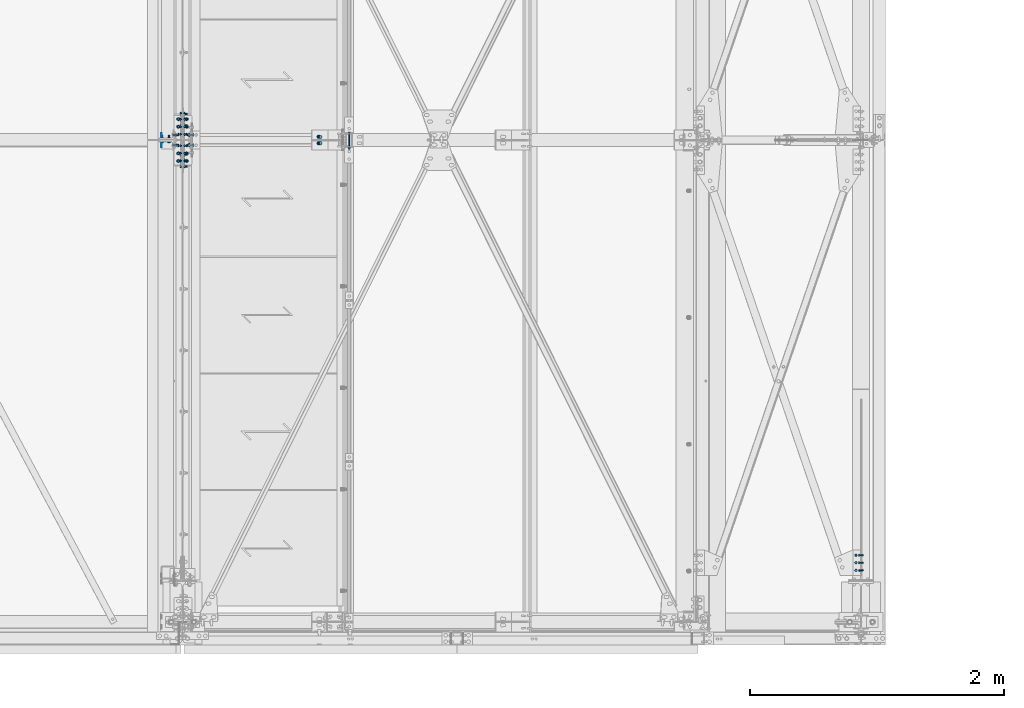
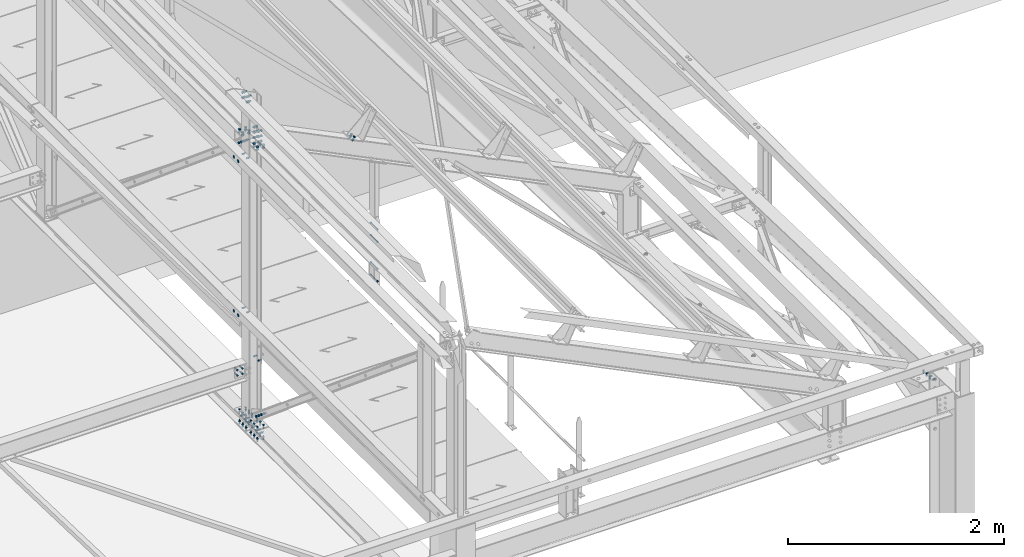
# One storey, part 188 of 362: 24 mechanical fasteners.
"""IFC2X3 building model written with IfcOpenShell, lengths in millimetres."""

from ifc_helpers import new_model, si_unit, frame, origin_with_axes, origin_2d_with_axis, place, context, subcontext, project, spatial, polyline, circle, outline, extrude, source, transform, mapped, material, type_object, element, save


model = new_model("IFC2X3")

# Units and contexts
model_context = context("Model", 3, precision=1e-05, world=origin_with_axes())
body_context = subcontext(model_context, "Body", "Model", "MODEL_VIEW")
ifc_project = project(units=[si_unit("LENGTHUNIT", "METRE", prefix="MILLI"), si_unit("AREAUNIT", "SQUARE_METRE"), si_unit("VOLUMEUNIT", "CUBIC_METRE"), si_unit("MASSUNIT", "GRAM", prefix="KILO"), si_unit("TIMEUNIT", "SECOND"), si_unit("PLANEANGLEUNIT", "RADIAN"), si_unit("SOLIDANGLEUNIT", "STERADIAN"), si_unit("THERMODYNAMICTEMPERATUREUNIT", "DEGREE_CELSIUS"), si_unit("LUMINOUSINTENSITYUNIT", "LUMEN")], contexts=[model_context])

# Site, building, storey
site_placement = place(None, origin_with_axes())
site = spatial("IfcSite", under=ifc_project, at=site_placement, Name="Undefined", CompositionType="ELEMENT")
building_placement = place(site_placement, origin_with_axes())
building = spatial("IfcBuilding", under=site, at=building_placement, Name="Undefined", CompositionType="ELEMENT")
storey_placement = place(building_placement, origin_with_axes())
storey = spatial("IfcBuildingStorey", under=building, at=storey_placement, Name="Undefined", CompositionType="ELEMENT", Elevation=0.0)

# Mechanical fasteners
ifc_material_1 = material(Name="6.8")
mechanical_fastener_type = type_object("IfcMechanicalFastenerType", Name="Bolt assembly")
shared_shape_1 = source(origin_with_axes(), body_context, "Body", "SweptSolid", [
    extrude(circle(Radius=15.0, at=origin_2d_with_axis()), frame((0.0, 0.0, 0.0), z_axis=(0.0, 1.0, 0.0), x_axis=(1.0, 0.0, 0.0)), (0.0, 0.0, 1.0), 4.1),
])
mechanical_fastener_1_placement = place(storey_placement, frame((34113.4999999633, 3800.0, 10245.0), z_axis=(0.0, 1.0, 0.0), x_axis=(0.0, 0.0, 1.0)))
element("IfcMechanicalFastener", 1, at=mechanical_fastener_1_placement, inside=storey, type_object=mechanical_fastener_type, material=ifc_material_1, Name="Bolt assembly", NominalDiameter=30.0, NominalLength=4.0, context=body_context, shape_type="MappedRepresentation", body=[
    mapped(shared_shape_1, transform((0.0, 0.0, 40.0))),
    mapped(shared_shape_1, transform((0.0, 0.0, -40.0))),
])
ifc_material_2 = material(Name="8.8-SB-ZINGUE")
shared_shape_2 = source(origin_with_axes(), body_context, "Body", "SweptSolid", [
    extrude(circle(Radius=9.0, at=origin_2d_with_axis()), frame((0.0, -10.9000000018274, 0.0), z_axis=(0.0, 1.0, 0.0), x_axis=(1.0, 0.0, 0.0)), (0.0, 0.0, 1.0), 6.0),
    extrude(circle(Radius=9.0, at=origin_2d_with_axis()), frame((0.0, 4.9000000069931, 0.0), z_axis=(0.0, 1.0, 0.0), x_axis=(1.0, 0.0, 0.0)), (0.0, 0.0, 1.0), 6.1),
    extrude(circle(Radius=9.0, at=origin_2d_with_axis()), frame((0.0, -3.99999923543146, 0.0), z_axis=(0.0, 1.0, 0.0), x_axis=(1.0, 0.0, 0.0)), (0.0, 0.0, 1.0), 8.0),
    extrude(outline(polyline([(13.85640646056, 0.0), (6.92820323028, 12.0000000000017), (-6.92820323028, 12.0000000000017), (-13.85640646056, 0.0), (-6.92820323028, -12.0000000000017), (6.92820323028, -12.0000000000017), (13.85640646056, 0.0)])), frame((0.0, -21.5600000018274, 0.0), z_axis=(0.0, 1.0, 0.0), x_axis=(1.0, 0.0, 0.0)), (0.0, 0.0, 1.0), 10.56),
    extrude(circle(Radius=8.0, at=origin_2d_with_axis()), frame((0.0, -11.0000000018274, 0.0), z_axis=(0.0, 1.0, 0.0), x_axis=(1.0, 0.0, 0.0)), (0.0, 0.0, 1.0), 50.0),
    extrude(outline(polyline([(15.3344231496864, 0.0), (7.6672115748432, 13.2800000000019), (-7.6672115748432, 13.2800000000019), (-15.3344231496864, 0.0), (-7.6672115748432, -13.2800000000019), (7.6672115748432, -13.2800000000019), (15.3344231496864, 0.0)])), frame((0.0, 11.0000000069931, 0.0), z_axis=(0.0, 1.0, 0.0), x_axis=(1.0, 0.0, 0.0)), (0.0, 0.0, 1.0), 10.56),
])
for number, where, z_axis, x_axis, name in (
    (2, (34280.0, 3684.86130813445, 7346.14095583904), (0.0, 0.640939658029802, 0.767591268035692), (0.0, -0.767591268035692, 0.640939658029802), "Bolt assembly"),
    (3, (34280.0, 3915.13876067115, 10326.8591349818), (0.0, -0.640939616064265, -0.767591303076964), (0.0, 0.767591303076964, -0.640939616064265), "Bolt assembly"),
):
    element("IfcMechanicalFastener", number, at=place(storey_placement, frame(where, z_axis=z_axis, x_axis=x_axis)), inside=storey, type_object=mechanical_fastener_type, material=ifc_material_2, Name=name, NominalDiameter=16.0, NominalLength=50.0, context=body_context, shape_type="MappedRepresentation", body=[
        mapped(shared_shape_2, transform((0.0, 0.0, 0.0))),
        mapped(shared_shape_2, transform((60.0, 0.0, 0.0))),
        mapped(shared_shape_2, transform((120.0, 0.0, 0.0))),
    ])
shared_shape_3 = source(origin_with_axes(), body_context, "Body", "SweptSolid", [
    extrude(circle(Radius=7.0, at=origin_2d_with_axis()), frame((0.0, -0.0998569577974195, 0.0), z_axis=(0.0, 1.0, 0.0), x_axis=(1.0, 0.0, 0.0)), (0.0, 0.0, 1.0), 8.6),
    extrude(circle(Radius=7.0, at=origin_2d_with_axis()), frame((0.0, -6.9, 0.0), z_axis=(0.0, 1.0, 0.0), x_axis=(1.0, 0.0, 0.0)), (0.0, 0.0, 1.0), 7.0),
    extrude(outline(polyline([(10.39230484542, 0.0), (5.19615242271, 9.00000000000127), (-5.19615242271, 9.00000000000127), (-10.39230484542, 0.0), (-5.19615242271, -9.00000000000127), (5.19615242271, -9.00000000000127), (10.39230484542, 0.0)])), frame((0.0, -14.92, 0.0), z_axis=(0.0, 1.0, 0.0), x_axis=(1.0, 0.0, 0.0)), (0.0, 0.0, 1.0), 7.92),
    extrude(circle(Radius=6.0, at=origin_2d_with_axis()), frame((0.0, -7.0, 0.0), z_axis=(0.0, 1.0, 0.0), x_axis=(1.0, 0.0, 0.0)), (0.0, 0.0, 1.0), 30.0),
    extrude(outline(polyline([(11.5008173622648, 0.0), (5.7504086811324, 9.96000000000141), (-5.7504086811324, 9.96000000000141), (-11.5008173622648, 0.0), (-5.7504086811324, -9.96000000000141), (5.7504086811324, -9.96000000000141), (11.5008173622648, 0.0)])), frame((0.0, 8.50011464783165, 0.0), z_axis=(0.0, 1.0, 0.0), x_axis=(1.0, 0.0, 0.0)), (0.0, 0.0, 1.0), 7.92),
])
mechanical_fastener_2_placement = place(storey_placement, frame((34346.5001146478, 3799.99999998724, 7910.00000000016), z_axis=(0.0, -1.0, 0.0), x_axis=(0.0, 0.0, 1.0)))
element("IfcMechanicalFastener", 4, at=mechanical_fastener_2_placement, inside=storey, type_object=mechanical_fastener_type, material=ifc_material_2, Name="Bolt assembly", NominalDiameter=12.0, NominalLength=30.0, context=body_context, shape_type="MappedRepresentation", body=[
    mapped(shared_shape_3, transform((0.0, 0.0, -40.0))),
    mapped(shared_shape_3, transform((0.0, 0.0, 40.0))),
])
shared_shape_4 = source(origin_with_axes(), body_context, "Body", "SweptSolid", [
    extrude(circle(Radius=7.0, at=origin_2d_with_axis()), frame((0.0, -49.9999013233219, 0.0), z_axis=(0.0, 1.0, 0.0), x_axis=(1.0, 0.0, 0.0)), (0.0, 0.0, 1.0), 100.0),
    extrude(circle(Radius=7.0, at=origin_2d_with_axis()), frame((0.0, -57.3998951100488, 0.0), z_axis=(0.0, 1.0, 0.0), x_axis=(1.0, 0.0, 0.0)), (0.0, 0.0, 1.0), 5.0),
    extrude(circle(Radius=7.0, at=origin_2d_with_axis()), frame((0.0, 52.4001048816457, 0.0), z_axis=(0.0, 1.0, 0.0), x_axis=(1.0, 0.0, 0.0)), (0.0, 0.0, 1.0), 5.1),
    extrude(outline(polyline([(10.96965511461, 0.0), (5.484827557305, 9.50000000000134), (-5.484827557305, 9.50000000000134), (-10.96965511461, 0.0), (-5.484827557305, -9.50000000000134), (5.484827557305, -9.50000000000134), (10.96965511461, 0.0)])), frame((0.0, -65.4998951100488, 0.0), z_axis=(0.0, 1.0, 0.0), x_axis=(1.0, 0.0, 0.0)), (0.0, 0.0, 1.0), 8.0),
    extrude(circle(Radius=6.0, at=origin_2d_with_axis()), frame((0.0, -57.4998951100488, 0.0), z_axis=(0.0, 1.0, 0.0), x_axis=(1.0, 0.0, 0.0)), (0.0, 0.0, 1.0), 130.0),
    extrude(outline(polyline([(10.39230484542, 0.0), (5.19615242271, 9.00000000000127), (-5.19615242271, 9.00000000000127), (-10.39230484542, 0.0), (-5.19615242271, -9.00000000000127), (5.19615242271, -9.00000000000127), (10.39230484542, 0.0)])), frame((0.0, 57.5001048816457, 0.0), z_axis=(0.0, 1.0, 0.0), x_axis=(1.0, 0.0, 0.0)), (0.0, 0.0, 1.0), 10.8),
])
for number, where, z_axis, x_axis, name in (
    (5, (35593.9917143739, 3800.00009874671, 8450.17500705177), (0.0, 0.0, 1.0), (-1.0, 0.0, 0.0), "Bolt assembly"),
    (6, (35593.9917143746, 3800.00009908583, 8897.42500405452), (0.0, 0.0, 1.0), (-1.0, 0.0, 0.0), "Bolt assembly"),
):
    element("IfcMechanicalFastener", number, at=place(storey_placement, frame(where, z_axis=z_axis, x_axis=x_axis)), inside=storey, type_object=mechanical_fastener_type, material=ifc_material_1, Name=name, NominalDiameter=12.0, NominalLength=130.0, context=body_context, shape_type="MappedRepresentation", body=[
        mapped(shared_shape_4, transform((0.0, 6.3664629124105e-11, -70.0))),
        mapped(shared_shape_4, transform((0.0, -6.3664629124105e-11, 70.0))),
    ])
shared_shape_5 = source(origin_with_axes(), body_context, "Body", "SweptSolid", [
    extrude(circle(Radius=9.0, at=origin_2d_with_axis()), frame((0.0, -0.0999426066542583, 0.0), z_axis=(0.0, 1.0, 0.0), x_axis=(1.0, 0.0, 0.0)), (0.0, 0.0, 1.0), 8.6),
    extrude(circle(Radius=9.0, at=origin_2d_with_axis()), frame((0.0, -9.9, 0.0), z_axis=(0.0, 1.0, 0.0), x_axis=(1.0, 0.0, 0.0)), (0.0, 0.0, 1.0), 10.0),
    extrude(outline(polyline([(13.85640646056, 0.0), (6.92820323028, 12.0000000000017), (-6.92820323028, 12.0000000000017), (-13.85640646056, 0.0), (-6.92820323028, -12.0000000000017), (6.92820323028, -12.0000000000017), (13.85640646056, 0.0)])), frame((0.0, -20.5600000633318, 0.0), z_axis=(0.0, 1.0, 0.0), x_axis=(1.0, 0.0, 0.0)), (0.0, 0.0, 1.0), 10.56),
    extrude(circle(Radius=8.0, at=origin_2d_with_axis()), frame((0.0, -10.0000010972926, 0.0), z_axis=(0.0, 1.0, 0.0), x_axis=(1.0, 0.0, 0.0)), (0.0, 0.0, 1.0), 40.0),
    extrude(outline(polyline([(15.3344231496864, 0.0), (7.6672115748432, 13.2800000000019), (-7.6672115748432, 13.2800000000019), (-15.3344231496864, 0.0), (-7.6672115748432, -13.2800000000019), (7.6672115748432, -13.2800000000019), (15.3344231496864, 0.0)])), frame((0.0, 8.49999994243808, 0.0), z_axis=(0.0, 1.0, 0.0), x_axis=(1.0, 0.0, 0.0)), (0.0, 0.0, 1.0), 10.56),
])
mechanical_fastener_3_placement = place(storey_placement, frame((35359.6856809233, 3800.00003751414, 10059.5712548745), z_axis=(0.0, 1.0, 0.0), x_axis=(0.897398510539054, 0.0, -0.44122093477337)))
element("IfcMechanicalFastener", 7, at=mechanical_fastener_3_placement, inside=storey, type_object=mechanical_fastener_type, material=ifc_material_2, Name="Bolt assembly", NominalDiameter=16.0, NominalLength=40.0, context=body_context, shape_type="MappedRepresentation", body=[
    mapped(shared_shape_5, transform((0.0, 0.0, -25.0))),
    mapped(shared_shape_5, transform((0.0, 0.0, 25.0))),
])
shared_shape_6 = source(origin_with_axes(), body_context, "Body", "SweptSolid", [
    extrude(circle(Radius=9.0, at=origin_2d_with_axis()), frame((0.0, -0.091713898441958, 0.0), z_axis=(0.0, 1.0, 0.0), x_axis=(1.0, 0.0, 0.0)), (0.0, 0.0, 1.0), 8.6),
    extrude(circle(Radius=9.0, at=origin_2d_with_axis()), frame((0.0, -9.89171439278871, 0.0), z_axis=(0.0, 1.0, 0.0), x_axis=(1.0, 0.0, 0.0)), (0.0, 0.0, 1.0), 10.0),
    extrude(outline(polyline([(13.85640646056, 0.0), (6.92820323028, 12.0000000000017), (-6.92820323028, 12.0000000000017), (-13.85640646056, 0.0), (-6.92820323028, -12.0000000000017), (6.92820323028, -12.0000000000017), (13.85640646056, 0.0)])), frame((0.0, -20.5517143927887, 0.0), z_axis=(0.0, 1.0, 0.0), x_axis=(1.0, 0.0, 0.0)), (0.0, 0.0, 1.0), 10.56),
    extrude(circle(Radius=8.0, at=origin_2d_with_axis()), frame((0.0, -9.99171439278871, 0.0), z_axis=(0.0, 1.0, 0.0), x_axis=(1.0, 0.0, 0.0)), (0.0, 0.0, 1.0), 40.0),
    extrude(outline(polyline([(15.3344231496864, 0.0), (7.6672115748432, 13.2800000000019), (-7.6672115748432, 13.2800000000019), (-15.3344231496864, 0.0), (-7.6672115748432, -13.2800000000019), (7.6672115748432, -13.2800000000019), (15.3344231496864, 0.0)])), frame((0.0, 8.50828610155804, 0.0), z_axis=(0.0, 1.0, 0.0), x_axis=(1.0, 0.0, 0.0)), (0.0, 0.0, 1.0), 10.56),
])
mechanical_fastener_4_placement = place(storey_placement, frame((34346.5082856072, 3760.0, 10446.3709529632), z_axis=(0.0, 0.0, 1.0), x_axis=(0.0, 1.0, 0.0)))
element("IfcMechanicalFastener", 8, at=mechanical_fastener_4_placement, inside=storey, type_object=mechanical_fastener_type, material=ifc_material_2, Name="Bolt assembly", NominalDiameter=16.0, NominalLength=40.0, context=body_context, shape_type="MappedRepresentation", body=[
    mapped(shared_shape_6, transform((0.0, 0.0, -60.0))),
    mapped(shared_shape_6, transform((80.0, 0.0, -60.0))),
    mapped(shared_shape_6, transform((0.0, 0.0, 0.0))),
    mapped(shared_shape_6, transform((80.0, 0.0, 0.0))),
    mapped(shared_shape_6, transform((0.0, 0.0, 60.0))),
    mapped(shared_shape_6, transform((80.0, 0.0, 60.0))),
])
shared_shape_7 = source(origin_with_axes(), body_context, "Body", "SweptSolid", [
    extrude(circle(Radius=15.0, at=origin_2d_with_axis()), frame((0.0, -0.000130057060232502, 0.0), z_axis=(0.0, 1.0, 0.0), x_axis=(1.0, 0.0, 0.0)), (0.0, 0.0, 1.0), 4.1),
])
mechanical_fastener_5_placement = place(storey_placement, frame((34113.5001162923, 3800.0, 8500.0), z_axis=(0.0, -1.0, 0.0), x_axis=(0.0, 0.0, -1.0)))
element("IfcMechanicalFastener", 9, at=mechanical_fastener_5_placement, inside=storey, type_object=mechanical_fastener_type, material=ifc_material_1, Name="Bolt assembly", NominalDiameter=30.0, NominalLength=4.0, context=body_context, shape_type="MappedRepresentation", body=[
    mapped(shared_shape_7, transform((0.0, 0.0, -40.0))),
    mapped(shared_shape_7, transform((0.0, 0.0, 40.0))),
])
shared_shape_8 = source(origin_with_axes(), body_context, "Body", "SweptSolid", [
    extrude(circle(Radius=7.0, at=origin_2d_with_axis()), frame((0.0, -3.90012822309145, 0.0), z_axis=(0.0, 1.0, 0.0), x_axis=(1.0, 0.0, 0.0)), (0.0, 0.0, 1.0), 4.0),
    extrude(circle(Radius=7.0, at=origin_2d_with_axis()), frame((0.0, -0.10007666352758, 0.0), z_axis=(0.0, 1.0, 0.0), x_axis=(1.0, 0.0, 0.0)), (0.0, 0.0, 1.0), 8.6),
    extrude(outline(polyline([(10.39230484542, 0.0), (5.19615242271, 9.00000000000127), (-5.19615242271, 9.00000000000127), (-10.39230484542, 0.0), (-5.19615242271, -9.00000000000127), (5.19615242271, -9.00000000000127), (10.39230484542, 0.0)])), frame((0.0, -11.9201282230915, 0.0), z_axis=(0.0, 1.0, 0.0), x_axis=(1.0, 0.0, 0.0)), (0.0, 0.0, 1.0), 7.92),
    extrude(circle(Radius=6.0, at=origin_2d_with_axis()), frame((0.0, -4.00012822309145, 0.0), z_axis=(0.0, 1.0, 0.0), x_axis=(1.0, 0.0, 0.0)), (0.0, 0.0, 1.0), 30.0),
    extrude(outline(polyline([(11.5008173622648, 0.0), (5.7504086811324, 9.96000000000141), (-5.7504086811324, 9.96000000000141), (-11.5008173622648, 0.0), (-5.7504086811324, -9.96000000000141), (5.7504086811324, -9.96000000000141), (11.5008173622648, 0.0)])), frame((0.0, 8.49988372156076, 0.0), z_axis=(0.0, 1.0, 0.0), x_axis=(1.0, 0.0, 0.0)), (0.0, 0.0, 1.0), 7.92),
])
mechanical_fastener_6_placement = place(storey_placement, frame((34213.5001162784, 3800.0, 8500.00000188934), z_axis=(0.0, -1.0, 0.0), x_axis=(0.0, 0.0, -1.0)))
element("IfcMechanicalFastener", 10, at=mechanical_fastener_6_placement, inside=storey, type_object=mechanical_fastener_type, material=ifc_material_2, Name="Bolt assembly", NominalDiameter=12.0, NominalLength=30.0, context=body_context, shape_type="MappedRepresentation", body=[
    mapped(shared_shape_8, transform((0.0, 0.0, -40.0))),
    mapped(shared_shape_8, transform((0.0, 0.0, 40.0))),
])
shared_shape_9 = source(origin_with_axes(), body_context, "Body", "SweptSolid", [
    extrude(circle(Radius=7.0, at=origin_2d_with_axis()), frame((0.0, -3.89999843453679, 0.0), z_axis=(0.0, 1.0, 0.0), x_axis=(1.0, 0.0, 0.0)), (0.0, 0.0, 1.0), 4.0),
    extrude(circle(Radius=7.0, at=origin_2d_with_axis()), frame((0.0, -0.100011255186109, 0.0), z_axis=(0.0, 1.0, 0.0), x_axis=(1.0, 0.0, 0.0)), (0.0, 0.0, 1.0), 8.6),
    extrude(outline(polyline([(10.39230484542, 0.0), (5.19615242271, 9.00000000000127), (-5.19615242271, 9.00000000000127), (-10.39230484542, 0.0), (-5.19615242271, -9.00000000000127), (5.19615242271, -9.00000000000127), (10.39230484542, 0.0)])), frame((0.0, -11.9199984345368, 0.0), z_axis=(0.0, 1.0, 0.0), x_axis=(1.0, 0.0, 0.0)), (0.0, 0.0, 1.0), 7.92),
    extrude(circle(Radius=6.0, at=origin_2d_with_axis()), frame((0.0, -3.99999923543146, 0.0), z_axis=(0.0, 1.0, 0.0), x_axis=(1.0, 0.0, 0.0)), (0.0, 0.0, 1.0), 30.0),
    extrude(outline(polyline([(11.5008173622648, 0.0), (5.7504086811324, 9.96000000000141), (-5.7504086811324, 9.96000000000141), (-11.5008173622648, 0.0), (-5.7504086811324, -9.96000000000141), (5.7504086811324, -9.96000000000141), (11.5008173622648, 0.0)])), frame((0.0, 8.49999994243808, 0.0), z_axis=(0.0, 1.0, 0.0), x_axis=(1.0, 0.0, 0.0)), (0.0, 0.0, 1.0), 7.92),
])
mechanical_fastener_7_placement = place(storey_placement, frame((34213.4999999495, 3800.0, 10244.9999981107), z_axis=(0.0, 1.0, 0.0), x_axis=(0.0, 0.0, 1.0)))
element("IfcMechanicalFastener", 11, at=mechanical_fastener_7_placement, inside=storey, type_object=mechanical_fastener_type, material=ifc_material_2, Name="Bolt assembly", NominalDiameter=12.0, NominalLength=30.0, context=body_context, shape_type="MappedRepresentation", body=[
    mapped(shared_shape_9, transform((0.0, 0.0, -40.0))),
    mapped(shared_shape_9, transform((0.0, 0.0, 40.0))),
])
shared_shape_10 = source(origin_with_axes(), body_context, "Body", "SweptSolid", [
    extrude(circle(Radius=9.0, at=origin_2d_with_axis()), frame((0.0, -0.100011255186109, 0.0), z_axis=(0.0, 1.0, 0.0), x_axis=(1.0, 0.0, 0.0)), (0.0, 0.0, 1.0), 8.6),
    extrude(circle(Radius=9.0, at=origin_2d_with_axis()), frame((0.0, -2.9, 0.0), z_axis=(0.0, 1.0, 0.0), x_axis=(1.0, 0.0, 0.0)), (0.0, 0.0, 1.0), 3.0),
    extrude(outline(polyline([(13.85640646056, 0.0), (6.92820323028, 12.0000000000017), (-6.92820323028, 12.0000000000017), (-13.85640646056, 0.0), (-6.92820323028, -12.0000000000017), (6.92820323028, -12.0000000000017), (13.85640646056, 0.0)])), frame((0.0, -13.56, 0.0), z_axis=(0.0, 1.0, 0.0), x_axis=(1.0, 0.0, 0.0)), (0.0, 0.0, 1.0), 10.56),
    extrude(circle(Radius=8.0, at=origin_2d_with_axis()), frame((0.0, -2.99999932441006, 0.0), z_axis=(0.0, 1.0, 0.0), x_axis=(1.0, 0.0, 0.0)), (0.0, 0.0, 1.0), 40.0),
    extrude(outline(polyline([(15.3344231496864, 0.0), (7.6672115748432, 13.2800000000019), (-7.6672115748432, 13.2800000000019), (-15.3344231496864, 0.0), (-7.6672115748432, -13.2800000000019), (7.6672115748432, -13.2800000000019), (15.3344231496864, 0.0)])), frame((0.0, 8.49999994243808, 0.0), z_axis=(0.0, 1.0, 0.0), x_axis=(1.0, 0.0, 0.0)), (0.0, 0.0, 1.0), 10.56),
])
for number, where, z_axis, x_axis, name in (
    (12, (34213.49999895, 3839.99695097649, 10880.8421014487), (0.0, 1.0, 0.0), (0.0, 0.0, 1.0), "Bolt assembly"),
    (13, (34213.49999895, 3759.99999584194, 10880.8421014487), (0.0, 1.0, 0.0), (0.0, 0.0, 1.0), "Bolt assembly"),
):
    element("IfcMechanicalFastener", number, at=place(storey_placement, frame(where, z_axis=z_axis, x_axis=x_axis)), inside=storey, type_object=mechanical_fastener_type, material=ifc_material_2, Name=name, NominalDiameter=16.0, NominalLength=40.0, context=body_context, shape_type="MappedRepresentation", body=[
        mapped(shared_shape_10, transform((0.0, 0.0, 0.0))),
        mapped(shared_shape_10, transform((60.0, 0.0, 0.0))),
    ])
shared_shape_11 = source(origin_with_axes(), body_context, "Body", "SweptSolid", [
    extrude(circle(Radius=7.0, at=origin_2d_with_axis()), frame((0.0, -0.100011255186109, 0.0), z_axis=(0.0, 1.0, 0.0), x_axis=(1.0, 0.0, 0.0)), (0.0, 0.0, 1.0), 6.1),
    extrude(circle(Radius=7.0, at=origin_2d_with_axis()), frame((0.0, -5.8999542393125, 0.0), z_axis=(0.0, 1.0, 0.0), x_axis=(1.0, 0.0, 0.0)), (0.0, 0.0, 1.0), 6.0),
    extrude(outline(polyline([(10.39230484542, 0.0), (5.19615242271, 9.00000000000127), (-5.19615242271, 9.00000000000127), (-10.39230484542, 0.0), (-5.19615242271, -9.00000000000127), (5.19615242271, -9.00000000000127), (10.39230484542, 0.0)])), frame((0.0, -13.9199542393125, 0.0), z_axis=(0.0, 1.0, 0.0), x_axis=(1.0, 0.0, 0.0)), (0.0, 0.0, 1.0), 7.92),
    extrude(circle(Radius=6.0, at=origin_2d_with_axis()), frame((0.0, -5.9999542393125, 0.0), z_axis=(0.0, 1.0, 0.0), x_axis=(1.0, 0.0, 0.0)), (0.0, 0.0, 1.0), 30.0),
    extrude(outline(polyline([(11.5008173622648, 0.0), (5.7504086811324, 9.96000000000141), (-5.7504086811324, 9.96000000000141), (-11.5008173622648, 0.0), (-5.7504086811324, -9.96000000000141), (5.7504086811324, -9.96000000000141), (11.5008173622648, 0.0)])), frame((0.0, 6.0, 0.0), z_axis=(0.0, 1.0, 0.0), x_axis=(1.0, 0.0, 0.0)), (0.0, 0.0, 1.0), 7.92),
])
mechanical_fastener_8_placement = place(storey_placement, frame((39590.0, 467.694968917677, 7909.23976990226), z_axis=(3.14103090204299e-11, 0.999506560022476, -0.0314107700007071), x_axis=(1.0, 0.0, 0.0)))
element("IfcMechanicalFastener", 14, at=mechanical_fastener_8_placement, inside=storey, type_object=mechanical_fastener_type, material=ifc_material_2, Name="Bolt assembly", NominalDiameter=12.0, NominalLength=30.0, context=body_context, shape_type="MappedRepresentation", body=[
    mapped(shared_shape_11, transform((0.0, 0.0, -60.0))),
    mapped(shared_shape_11, transform((0.0, 0.0, 0.0))),
    mapped(shared_shape_11, transform((0.0, 0.0, 60.0))),
])
shared_shape_12 = source(origin_with_axes(), body_context, "Body", "SweptSolid", [
    extrude(circle(Radius=7.0, at=origin_2d_with_axis()), frame((0.0, -3.40000002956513, 0.0), z_axis=(0.0, 1.0, 0.0), x_axis=(1.0, 0.0, 0.0)), (0.0, 0.0, 1.0), 6.7),
    extrude(circle(Radius=7.0, at=origin_2d_with_axis()), frame((0.0, -10.9000000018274, 0.0), z_axis=(0.0, 1.0, 0.0), x_axis=(1.0, 0.0, 0.0)), (0.0, 0.0, 1.0), 6.0),
    extrude(outline(polyline([(10.39230484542, 0.0), (5.19615242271, 9.00000000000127), (-5.19615242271, 9.00000000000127), (-10.39230484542, 0.0), (-5.19615242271, -9.00000000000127), (5.19615242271, -9.00000000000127), (10.39230484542, 0.0)])), frame((0.0, -18.9200000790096, 0.0), z_axis=(0.0, 1.0, 0.0), x_axis=(1.0, 0.0, 0.0)), (0.0, 0.0, 1.0), 7.92),
    extrude(circle(Radius=6.0, at=origin_2d_with_axis()), frame((0.0, -11.0000000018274, 0.0), z_axis=(0.0, 1.0, 0.0), x_axis=(1.0, 0.0, 0.0)), (0.0, 0.0, 1.0), 30.0),
    extrude(outline(polyline([(11.5008173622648, 0.0), (5.7504086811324, 9.96000000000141), (-5.7504086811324, 9.96000000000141), (-11.5008173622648, 0.0), (-5.7504086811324, -9.96000000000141), (5.7504086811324, -9.96000000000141), (11.5008173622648, 0.0)])), frame((0.0, 3.29999995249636, 0.0), z_axis=(0.0, 1.0, 0.0), x_axis=(1.0, 0.0, 0.0)), (0.0, 0.0, 1.0), 7.92),
])
mechanical_fastener_9_placement = place(storey_placement, frame((39630.0000000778, 466.595592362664, 7874.25704031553), z_axis=(3.14103090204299e-11, 0.999506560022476, -0.0314107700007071), x_axis=(7.58071938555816e-11, 0.0314107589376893, 0.999506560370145)))
element("IfcMechanicalFastener", 15, at=mechanical_fastener_9_placement, inside=storey, type_object=mechanical_fastener_type, material=ifc_material_2, Name="Bolt assembly", NominalDiameter=12.0, NominalLength=30.0, context=body_context, shape_type="MappedRepresentation", body=[
    mapped(shared_shape_12, transform((0.0, 0.0, -60.0))),
    mapped(shared_shape_12, transform((0.0, 0.0, 0.0))),
    mapped(shared_shape_12, transform((0.0, 0.0, 60.0))),
])
shared_shape_13 = source(origin_with_axes(), body_context, "Body", "SweptSolid", [
    extrude(circle(Radius=7.0, at=origin_2d_with_axis()), frame((0.0, -2.80575574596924, 0.0), z_axis=(0.0, 1.0, 0.0), x_axis=(1.0, 0.0, 0.0)), (0.0, 0.0, 1.0), 5.6),
    extrude(circle(Radius=7.0, at=origin_2d_with_axis()), frame((0.0, -12.9001594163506, 0.0), z_axis=(0.0, 1.0, 0.0), x_axis=(1.0, 0.0, 0.0)), (0.0, 0.0, 1.0), 10.0),
    extrude(circle(Radius=7.0, at=origin_2d_with_axis()), frame((0.0, 2.90070287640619, 0.0), z_axis=(0.0, 1.0, 0.0), x_axis=(1.0, 0.0, 0.0)), (0.0, 0.0, 1.0), 10.1),
    extrude(outline(polyline([(10.39230484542, 0.0), (5.19615242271, 9.00000000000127), (-5.19615242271, 9.00000000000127), (-10.39230484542, 0.0), (-5.19615242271, -9.00000000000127), (5.19615242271, -9.00000000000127), (10.39230484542, 0.0)])), frame((0.0, -20.9201594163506, 0.0), z_axis=(0.0, 1.0, 0.0), x_axis=(1.0, 0.0, 0.0)), (0.0, 0.0, 1.0), 7.92),
    extrude(circle(Radius=6.0, at=origin_2d_with_axis()), frame((0.0, -13.0001594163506, 0.0), z_axis=(0.0, 1.0, 0.0), x_axis=(1.0, 0.0, 0.0)), (0.0, 0.0, 1.0), 50.0),
    extrude(outline(polyline([(11.5008173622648, 0.0), (5.7504086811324, 9.96000000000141), (-5.7504086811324, 9.96000000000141), (-11.5008173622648, 0.0), (-5.7504086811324, -9.96000000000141), (5.7504086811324, -9.96000000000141), (11.5008173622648, 0.0)])), frame((0.0, 13.0007028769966, 0.0), z_axis=(0.0, 1.0, 0.0), x_axis=(1.0, 0.0, 0.0)), (0.0, 0.0, 1.0), 7.92),
])
mechanical_fastener_10_placement = place(storey_placement, frame((34118.4999999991, 3800.00577605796, 7830.53232332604), z_axis=(7.58071938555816e-11, 0.0314107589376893, 0.999506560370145), x_axis=(0.999999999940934, -1.08559999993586e-05, 5.27999997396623e-07)))
element("IfcMechanicalFastener", 16, at=mechanical_fastener_10_placement, inside=storey, type_object=mechanical_fastener_type, material=ifc_material_2, Name="Bolt assembly", NominalDiameter=12.0, NominalLength=50.0, context=body_context, shape_type="MappedRepresentation", body=[
    mapped(shared_shape_13, transform((0.0, 0.0, -30.0))),
    mapped(shared_shape_13, transform((55.0000000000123, 3.45607986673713e-11, -30.0000000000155))),
    mapped(shared_shape_13, transform((0.0, 0.0, 30.0))),
    mapped(shared_shape_13, transform((54.9999999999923, 3.45607986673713e-11, 29.9999999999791))),
])
shared_shape_14 = source(origin_with_axes(), body_context, "Body", "SweptSolid", [
    extrude(circle(Radius=9.0, at=origin_2d_with_axis()), frame((0.0, -8.40001950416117, 0.0), z_axis=(0.0, 1.0, 0.0), x_axis=(1.0, 0.0, 0.0)), (0.0, 0.0, 1.0), 8.5),
    extrude(circle(Radius=9.0, at=origin_2d_with_axis()), frame((0.0, -0.100011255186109, 0.0), z_axis=(0.0, 1.0, 0.0), x_axis=(1.0, 0.0, 0.0)), (0.0, 0.0, 1.0), 10.1),
    extrude(outline(polyline([(13.85640646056, 0.0), (6.92820323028, 12.0000000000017), (-6.92820323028, 12.0000000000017), (-13.85640646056, 0.0), (-6.92820323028, -12.0000000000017), (6.92820323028, -12.0000000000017), (13.85640646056, 0.0)])), frame((0.0, -19.0599999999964, 0.0), z_axis=(0.0, 1.0, 0.0), x_axis=(1.0, 0.0, 0.0)), (0.0, 0.0, 1.0), 10.56),
    extrude(circle(Radius=8.0, at=origin_2d_with_axis()), frame((0.0, -8.5, 0.0), z_axis=(0.0, 1.0, 0.0), x_axis=(1.0, 0.0, 0.0)), (0.0, 0.0, 1.0), 40.0),
    extrude(outline(polyline([(15.3344231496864, 0.0), (7.6672115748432, 13.2800000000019), (-7.6672115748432, 13.2800000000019), (-15.3344231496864, 0.0), (-7.6672115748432, -13.2800000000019), (7.6672115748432, -13.2800000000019), (15.3344231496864, 0.0)])), frame((0.0, 10.0000000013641, 0.0), z_axis=(0.0, 1.0, 0.0), x_axis=(1.0, 0.0, 0.0)), (0.0, 0.0, 1.0), 10.56),
])
mechanical_fastener_11_placement = place(storey_placement, frame((34280.0000000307, 3694.99692211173, 10423.0), z_axis=(1.0, 0.0, 0.0), x_axis=(0.0, -1.0, 0.0)))
element("IfcMechanicalFastener", 17, at=mechanical_fastener_11_placement, inside=storey, type_object=mechanical_fastener_type, material=ifc_material_2, Name="Bolt assembly", NominalDiameter=16.0, NominalLength=40.0, context=body_context, shape_type="MappedRepresentation", body=[
    mapped(shared_shape_14, transform((0.0, 0.0, 32.5))),
    mapped(shared_shape_14, transform((60.0, 0.0, 32.5))),
    mapped(shared_shape_14, transform((0.0, 0.0, -32.5))),
    mapped(shared_shape_14, transform((60.0, 0.0, -32.5))),
])
mechanical_fastener_12_placement = place(storey_placement, frame((34280.0000000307, 3905.0, 10423.0), z_axis=(-1.0, 0.0, 0.0), x_axis=(0.0, 1.0, 0.0)))
element("IfcMechanicalFastener", 18, at=mechanical_fastener_12_placement, inside=storey, type_object=mechanical_fastener_type, material=ifc_material_2, Name="Bolt assembly", NominalDiameter=16.0, NominalLength=40.0, context=body_context, shape_type="MappedRepresentation", body=[
    mapped(shared_shape_14, transform((0.0, 0.0, -32.5))),
    mapped(shared_shape_14, transform((60.0, 0.0, -32.5))),
    mapped(shared_shape_14, transform((0.0, 0.0, 32.5))),
    mapped(shared_shape_14, transform((60.0, 0.0, 32.5))),
])
shared_shape_15 = source(origin_with_axes(), body_context, "Body", "SweptSolid", [
    extrude(circle(Radius=6.0, at=origin_2d_with_axis()), frame((0.0, -2.74999998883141, 0.0), z_axis=(0.0, 1.0, 0.0), x_axis=(1.0, 0.0, 0.0)), (0.0, 0.0, 1.0), 5.5),
    extrude(circle(Radius=6.0, at=origin_2d_with_axis()), frame((0.0, 2.90000527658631, 0.0), z_axis=(0.0, 1.0, 0.0), x_axis=(1.0, 0.0, 0.0)), (0.0, 0.0, 1.0), 10.1),
    extrude(circle(Radius=6.0, at=origin_2d_with_axis()), frame((0.0, -12.9000010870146, 0.0), z_axis=(0.0, 1.0, 0.0), x_axis=(1.0, 0.0, 0.0)), (0.0, 0.0, 1.0), 10.0),
    extrude(outline(polyline([(10.39230484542, 0.0), (5.19615242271, 9.00000000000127), (-5.19615242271, 9.00000000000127), (-10.39230484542, 0.0), (-5.19615242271, -9.00000000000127), (5.19615242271, -9.00000000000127), (10.39230484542, 0.0)])), frame((0.0, -20.9200027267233, 0.0), z_axis=(0.0, 1.0, 0.0), x_axis=(1.0, 0.0, 0.0)), (0.0, 0.0, 1.0), 7.92),
    extrude(circle(Radius=6.0, at=origin_2d_with_axis()), frame((0.0, -13.0000000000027, 0.0), z_axis=(0.0, 1.0, 0.0), x_axis=(1.0, 0.0, 0.0)), (0.0, 0.0, 1.0), 50.0),
    extrude(outline(polyline([(11.5008173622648, 0.0), (5.7504086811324, 9.96000000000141), (-5.7504086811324, 9.96000000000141), (-11.5008173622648, 0.0), (-5.7504086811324, -9.96000000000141), (5.7504086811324, -9.96000000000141), (11.5008173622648, 0.0)])), frame((0.0, 13.0000006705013, 0.0), z_axis=(0.0, 1.0, 0.0), x_axis=(1.0, 0.0, 0.0)), (0.0, 0.0, 1.0), 7.92),
])
for number, where, z_axis, x_axis, name in (
    (19, (34280.0, 3635.00000000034, 7183.50000000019), (0.0, 0.0, -1.0), (0.0, 1.0, 0.0), "Bolt assembly"),
    (20, (34280.0, 3965.00000000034, 7183.50000000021), (0.0, 0.0, 1.0), (0.0, -1.0, 0.0), "Bolt assembly"),
):
    element("IfcMechanicalFastener", number, at=place(storey_placement, frame(where, z_axis=z_axis, x_axis=x_axis)), inside=storey, type_object=mechanical_fastener_type, material=ifc_material_2, Name=name, NominalDiameter=12.0, NominalLength=50.0, context=body_context, shape_type="MappedRepresentation", body=[
        mapped(shared_shape_15, transform((0.0, 0.0, 0.0))),
        mapped(shared_shape_15, transform((60.0, 0.0, 0.0))),
        mapped(shared_shape_15, transform((120.0, 0.0, 0.0))),
    ])
shared_shape_16 = source(origin_with_axes(), body_context, "Body", "SweptSolid", [
    extrude(circle(Radius=6.0, at=origin_2d_with_axis()), frame((0.0, -0.10007666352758, 0.0), z_axis=(0.0, 1.0, 0.0), x_axis=(1.0, 0.0, 0.0)), (0.0, 0.0, 1.0), 8.6),
    extrude(circle(Radius=6.0, at=origin_2d_with_axis()), frame((0.0, -9.9, 0.0), z_axis=(0.0, 1.0, 0.0), x_axis=(1.0, 0.0, 0.0)), (0.0, 0.0, 1.0), 10.0),
    extrude(outline(polyline([(10.39230484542, 0.0), (5.19615242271, 9.00000000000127), (-5.19615242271, 9.00000000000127), (-10.39230484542, 0.0), (-5.19615242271, -9.00000000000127), (5.19615242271, -9.00000000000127), (10.39230484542, 0.0)])), frame((0.0, -17.92, 0.0), z_axis=(0.0, 1.0, 0.0), x_axis=(1.0, 0.0, 0.0)), (0.0, 0.0, 1.0), 7.92),
    extrude(circle(Radius=6.0, at=origin_2d_with_axis()), frame((0.0, -10.0000010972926, 0.0), z_axis=(0.0, 1.0, 0.0), x_axis=(1.0, 0.0, 0.0)), (0.0, 0.0, 1.0), 40.0),
    extrude(outline(polyline([(11.5008173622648, 0.0), (5.7504086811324, 9.96000000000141), (-5.7504086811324, 9.96000000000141), (-11.5008173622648, 0.0), (-5.7504086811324, -9.96000000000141), (5.7504086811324, -9.96000000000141), (11.5008173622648, 0.0)])), frame((0.0, 8.49999994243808, 0.0), z_axis=(0.0, 1.0, 0.0), x_axis=(1.0, 0.0, 0.0)), (0.0, 0.0, 1.0), 7.92),
])
mechanical_fastener_13_placement = place(storey_placement, frame((34280.0, 3635.00000000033, 7117.00003157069), z_axis=(1.0, 0.0, 0.0), x_axis=(0.0, 1.0, 0.0)))
element("IfcMechanicalFastener", 21, at=mechanical_fastener_13_placement, inside=storey, type_object=mechanical_fastener_type, material=ifc_material_2, Name="Bolt assembly", NominalDiameter=12.0, NominalLength=40.0, context=body_context, shape_type="MappedRepresentation", body=[
    mapped(shared_shape_16, transform((0.0, 0.0, 32.5))),
    mapped(shared_shape_16, transform((60.0, 0.0, 32.5))),
    mapped(shared_shape_16, transform((120.0, 0.0, 32.5))),
    mapped(shared_shape_16, transform((0.0, 0.0, -32.5))),
    mapped(shared_shape_16, transform((60.0, 0.0, -32.5))),
    mapped(shared_shape_16, transform((120.0, 0.0, -32.5))),
])
for number, where, z_axis, x_axis, name in (
    (22, (34280.0, 3635.00000000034, 7249.99996842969), (-1.0, 0.0, 0.0), (0.0, 1.0, 0.0), "Bolt assembly"),
    (23, (34280.0, 3964.99692211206, 7117.00003157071), (-1.0, 0.0, 0.0), (0.0, -1.0, 0.0), "Bolt assembly"),
):
    element("IfcMechanicalFastener", number, at=place(storey_placement, frame(where, z_axis=z_axis, x_axis=x_axis)), inside=storey, type_object=mechanical_fastener_type, material=ifc_material_2, Name=name, NominalDiameter=12.0, NominalLength=40.0, context=body_context, shape_type="MappedRepresentation", body=[
        mapped(shared_shape_16, transform((0.0, 0.0, -32.5))),
        mapped(shared_shape_16, transform((60.0, 0.0, -32.5))),
        mapped(shared_shape_16, transform((120.0, 0.0, -32.5))),
        mapped(shared_shape_16, transform((0.0, 0.0, 32.5))),
        mapped(shared_shape_16, transform((60.0, 0.0, 32.5))),
        mapped(shared_shape_16, transform((120.0, 0.0, 32.5))),
    ])
mechanical_fastener_14_placement = place(storey_placement, frame((34280.0, 3964.99692211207, 7249.99996842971), z_axis=(1.0, 0.0, 0.0), x_axis=(0.0, -1.0, 0.0)))
element("IfcMechanicalFastener", 24, at=mechanical_fastener_14_placement, inside=storey, type_object=mechanical_fastener_type, material=ifc_material_2, Name="Bolt assembly", NominalDiameter=12.0, NominalLength=40.0, context=body_context, shape_type="MappedRepresentation", body=[
    mapped(shared_shape_16, transform((0.0, 0.0, 32.5))),
    mapped(shared_shape_16, transform((60.0, 0.0, 32.5))),
    mapped(shared_shape_16, transform((120.0, 0.0, 32.5))),
    mapped(shared_shape_16, transform((0.0, 0.0, -32.5))),
    mapped(shared_shape_16, transform((60.0, 0.0, -32.5))),
    mapped(shared_shape_16, transform((120.0, 0.0, -32.5))),
])

save(model, "model.ifc")
